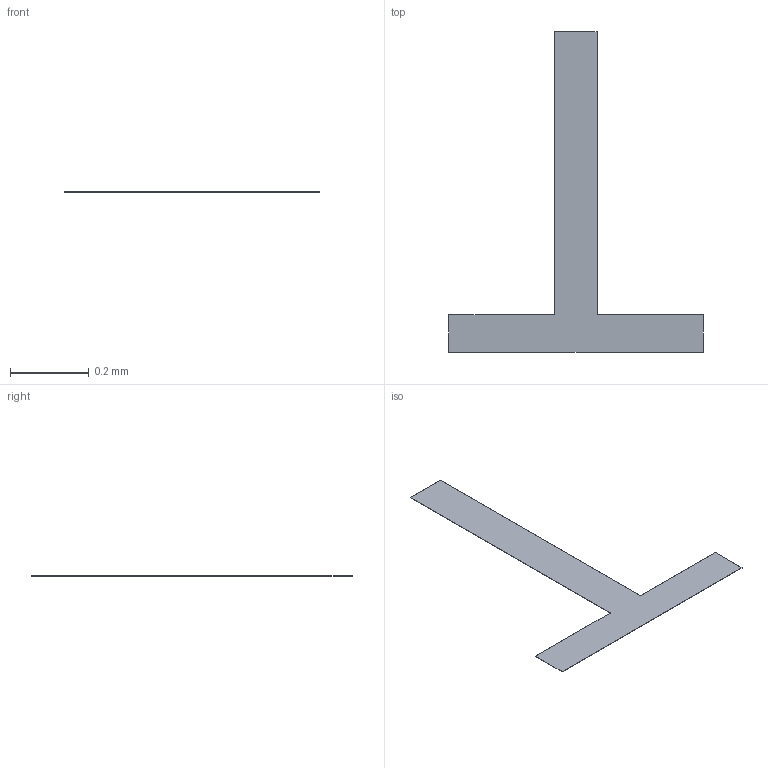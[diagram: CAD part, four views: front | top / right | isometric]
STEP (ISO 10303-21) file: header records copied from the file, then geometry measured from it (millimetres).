
FILE_DESCRIPTION(/* description */ ('STEP AP242 Edition 2','CAx-IF Rec.Pracs.---Representation and Presentation of Product Manufacturing Information (PMI)---4.0---2014-10-13','CAx-IF Rec.Pracs.---3D Tessellated Geometry---0.4---2014-09-14','2;1','CAx-IF Rec.Pracs.---User Defined Attributes---1.5---2016-08-15'),/* implementation_level */ '2;1');
FILE_NAME(/* name */ 'Drone Layout - Surface 343',/* time_stamp */ '2026-10-04T22:22:56Z',/* author */ (''),/* organization */ (''),/* preprocessor_version */ 'ST-DEVELOPER v20',/* originating_system */ 'ONSHAPE BY PTC INC, 1.221',/* authorisation */ ' ');
FILE_SCHEMA (('AP242_MANAGED_MODEL_BASED_3D_ENGINEERING_MIM_LF { 1 0 10303 442 3 1 4 }'));
Length unit declared in the file: metre
Products named in the file (1): VL53L0X:1__Body31
Bounding box: 0.65 x 0.82 x 0 mm (x, y, z)
Volume: 0 mm3; surface area: 0.3 mm2
Topology: 1 solids, 1 shells, 10 faces, 24 edges, 16 vertices
Faces by surface type: plane 10
Entity records: 301 total; most frequent: CARTESIAN_POINT 51, ORIENTED_EDGE 48, DIRECTION 46, EDGE_CURVE 24, LINE 24, VECTOR 24, VERTEX_POINT 16, AXIS2_PLACEMENT_3D 11
